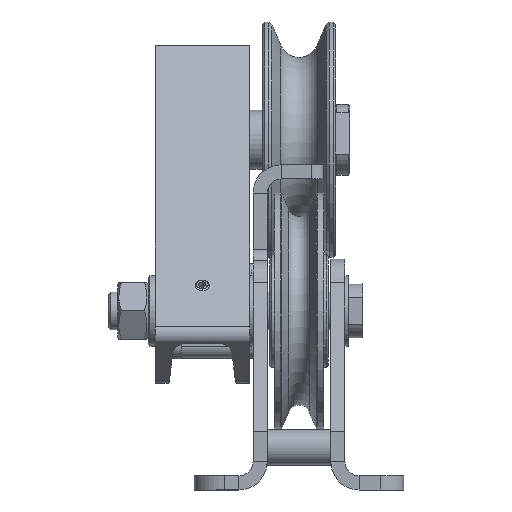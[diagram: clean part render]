
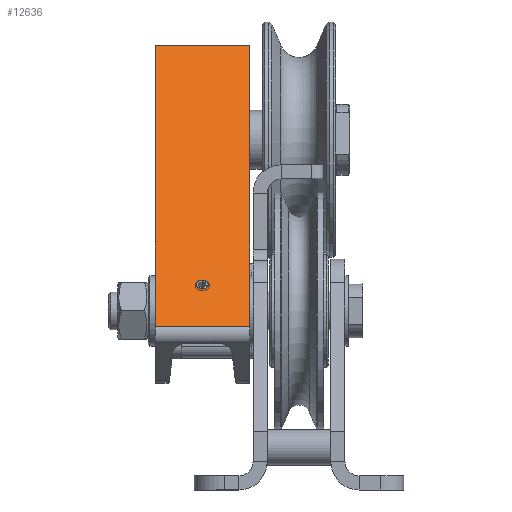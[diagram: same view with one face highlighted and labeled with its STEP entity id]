
A CAD part, left-side view. The second image highlights one B-rep face of the part: STEP entity #12636.
In plain terms, the highlighted planar face has unit normal (-0.769, 0, 0.639) as drawn and (-1, 0, 0) by its records, which use the part's own axes.
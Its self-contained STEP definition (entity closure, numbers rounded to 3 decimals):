
#865=FACE_BOUND('',#2280,.T.);
#999=PLANE('',#14030);
#1537=FACE_OUTER_BOUND('',#2279,.T.);
#2279=EDGE_LOOP('',(#9574,#9575,#9576,#9577));
#2280=EDGE_LOOP('',(#9578,#9579));
#3088=LINE('',#19980,#4129);
#3118=LINE('',#20132,#4159);
#3122=LINE('',#20138,#4163);
#3123=LINE('',#20140,#4164);
#4129=VECTOR('',#16034,10.);
#4159=VECTOR('',#16128,10.);
#4163=VECTOR('',#16134,10.);
#4164=VECTOR('',#16137,10.);
#5142=CIRCLE('',#14012,2.459);
#5143=CIRCLE('',#14013,2.459);
#5891=VERTEX_POINT('',#19977);
#5892=VERTEX_POINT('',#19979);
#5915=VERTEX_POINT('',#20059);
#5916=VERTEX_POINT('',#20060);
#5929=VERTEX_POINT('',#20129);
#5930=VERTEX_POINT('',#20131);
#7220=EDGE_CURVE('',#5891,#5892,#3088,.T.);
#7251=EDGE_CURVE('',#5915,#5916,#5142,.T.);
#7252=EDGE_CURVE('',#5916,#5915,#5143,.T.);
#7275=EDGE_CURVE('',#5929,#5930,#3118,.T.);
#7279=EDGE_CURVE('',#5930,#5891,#3122,.T.);
#7280=EDGE_CURVE('',#5929,#5892,#3123,.T.);
#9574=ORIENTED_EDGE('',*,*,#7220,.F.);
#9575=ORIENTED_EDGE('',*,*,#7279,.F.);
#9576=ORIENTED_EDGE('',*,*,#7275,.F.);
#9577=ORIENTED_EDGE('',*,*,#7280,.T.);
#9578=ORIENTED_EDGE('',*,*,#7251,.T.);
#9579=ORIENTED_EDGE('',*,*,#7252,.T.);
#12636=ADVANCED_FACE('',(#1537,#865),#999,.T.);
#14012=AXIS2_PLACEMENT_3D('',#20061,#16088,#16089);
#14013=AXIS2_PLACEMENT_3D('',#20062,#16090,#16091);
#14030=AXIS2_PLACEMENT_3D('',#20142,#16140,#16141);
#16034=DIRECTION('',(0.,-1.,0.));
#16088=DIRECTION('center_axis',(1.,0.,0.));
#16089=DIRECTION('ref_axis',(0.,0.,
1.));
#16090=DIRECTION('center_axis',(1.,0.,0.));
#16091=DIRECTION('ref_axis',(0.,0.,
1.));
#16128=DIRECTION('',(0.,1.,0.));
#16134=DIRECTION('',(0.,0.,1.));
#16137=DIRECTION('',(0.,0.,1.));
#16140=DIRECTION('center_axis',(-1.,0.,0.));
#16141=DIRECTION('ref_axis',(0.,0.,
1.));
#19977=CARTESIAN_POINT('',(0.,20.,155.));
#19979=CARTESIAN_POINT('',(0.,-20.,155.));
#19980=CARTESIAN_POINT('',(0.,0.,155.));
#20059=CARTESIAN_POINT('',(0.,0.,
134.459));
#20060=CARTESIAN_POINT('',(0.,0.,
129.542));
#20061=CARTESIAN_POINT('Origin',(0.,0.,
132.));
#20062=CARTESIAN_POINT('Origin',(0.,0.,
132.));
#20129=CARTESIAN_POINT('',(0.,-20.,0.));
#20131=CARTESIAN_POINT('',(0.,20.,0.));
#20132=CARTESIAN_POINT('',(0.,0.,0.));
#20138=CARTESIAN_POINT('',(0.,20.,0.));
#20140=CARTESIAN_POINT('',(0.,-20.,0.));
#20142=CARTESIAN_POINT('Origin',(0.,0.,
0.));
